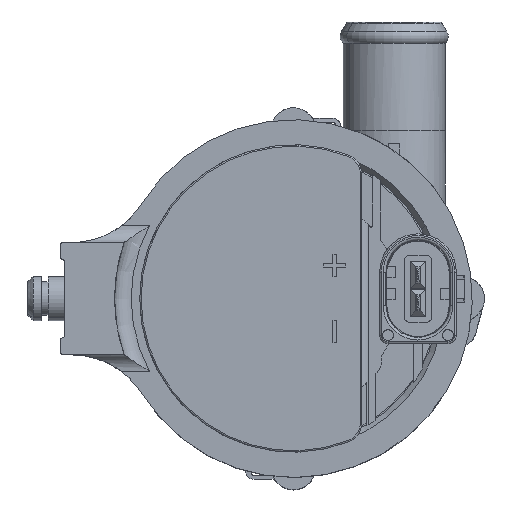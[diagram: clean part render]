
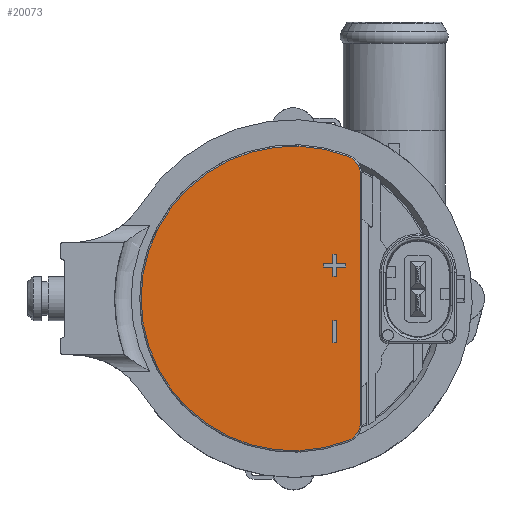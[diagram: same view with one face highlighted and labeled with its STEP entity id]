
A CAD part, top view. The second image highlights one B-rep face of the part: STEP entity #20073.
In plain terms, the highlighted planar face has unit normal (0, 0, 1).
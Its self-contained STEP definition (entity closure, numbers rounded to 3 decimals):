
#19897=AXIS2_PLACEMENT_3D('Plane Axis2P3D',#19894,#19895,#19896) ;
#19901=AXIS2_PLACEMENT_3D('Circle Axis2P3D',#19899,#19900,$) ;
#19910=AXIS2_PLACEMENT_3D('Circle Axis2P3D',#19908,#19909,$) ;
#19924=AXIS2_PLACEMENT_3D('Circle Axis2P3D',#19922,#19923,$) ;
#19931=AXIS2_PLACEMENT_3D('Circle Axis2P3D',#19929,#19930,$) ;
#19894=CARTESIAN_POINT('Axis2P3D Location',(8.85,0.,40.5)) ;
#19899=CARTESIAN_POINT('Axis2P3D Location',(0.,0.,40.5)) ;
#19903=CARTESIAN_POINT('Vertex',(-27.5,0.,40.5)) ;
#19905=CARTESIAN_POINT('Vertex',(9.854,-25.674,40.5)) ;
#19908=CARTESIAN_POINT('Axis2P3D Location',(8.6,-22.406,40.5)) ;
#19912=CARTESIAN_POINT('Vertex',(12.1,-22.406,40.5)) ;
#19915=CARTESIAN_POINT('Line Origine',(12.1,0.,40.5)) ;
#19919=CARTESIAN_POINT('Vertex',(12.1,22.406,40.5)) ;
#19922=CARTESIAN_POINT('Axis2P3D Location',(8.6,22.406,40.5)) ;
#19926=CARTESIAN_POINT('Vertex',(9.854,25.674,40.5)) ;
#19929=CARTESIAN_POINT('Axis2P3D Location',(0.,0.,40.5)) ;
#19941=CARTESIAN_POINT('Line Origine',(7.85,-6.,40.5)) ;
#19945=CARTESIAN_POINT('Vertex',(7.85,-8.,40.5)) ;
#19947=CARTESIAN_POINT('Vertex',(7.85,-4.,40.5)) ;
#19950=CARTESIAN_POINT('Line Origine',(7.5,-8.,40.5)) ;
#19954=CARTESIAN_POINT('Vertex',(7.15,-8.,40.5)) ;
#19957=CARTESIAN_POINT('Line Origine',(7.15,-6.,40.5)) ;
#19961=CARTESIAN_POINT('Vertex',(7.15,-4.,40.5)) ;
#19964=CARTESIAN_POINT('Line Origine',(7.5,-4.,40.5)) ;
#19975=CARTESIAN_POINT('Line Origine',(8.675,6.35,40.5)) ;
#19979=CARTESIAN_POINT('Vertex',(9.5,6.35,40.5)) ;
#19981=CARTESIAN_POINT('Vertex',(7.85,6.35,40.5)) ;
#19984=CARTESIAN_POINT('Line Origine',(9.5,6.,40.5)) ;
#19988=CARTESIAN_POINT('Vertex',(9.5,5.65,40.5)) ;
#19991=CARTESIAN_POINT('Line Origine',(8.675,5.65,40.5)) ;
#19995=CARTESIAN_POINT('Vertex',(7.85,5.65,40.5)) ;
#19998=CARTESIAN_POINT('Line Origine',(7.85,4.825,40.5)) ;
#20002=CARTESIAN_POINT('Vertex',(7.85,4.,40.5)) ;
#20005=CARTESIAN_POINT('Line Origine',(7.5,4.,40.5)) ;
#20009=CARTESIAN_POINT('Vertex',(7.15,4.,40.5)) ;
#20012=CARTESIAN_POINT('Line Origine',(7.15,4.825,40.5)) ;
#20016=CARTESIAN_POINT('Vertex',(7.15,5.65,40.5)) ;
#20019=CARTESIAN_POINT('Line Origine',(6.325,5.65,40.5)) ;
#20023=CARTESIAN_POINT('Vertex',(5.5,5.65,40.5)) ;
#20026=CARTESIAN_POINT('Line Origine',(5.5,6.,40.5)) ;
#20030=CARTESIAN_POINT('Vertex',(5.5,6.35,40.5)) ;
#20033=CARTESIAN_POINT('Line Origine',(6.325,6.35,40.5)) ;
#20037=CARTESIAN_POINT('Vertex',(7.15,6.35,40.5)) ;
#20040=CARTESIAN_POINT('Line Origine',(7.15,7.175,40.5)) ;
#20044=CARTESIAN_POINT('Vertex',(7.15,8.,40.5)) ;
#20047=CARTESIAN_POINT('Line Origine',(7.5,8.,40.5)) ;
#20051=CARTESIAN_POINT('Vertex',(7.85,8.,40.5)) ;
#20054=CARTESIAN_POINT('Line Origine',(7.85,7.175,40.5)) ;
#19895=DIRECTION('Axis2P3D Direction',(0.,0.,1.)) ;
#19896=DIRECTION('Axis2P3D XDirection',(1.,0.,0.)) ;
#19900=DIRECTION('Axis2P3D Direction',(0.,0.,1.)) ;
#19909=DIRECTION('Axis2P3D Direction',(0.,0.,1.)) ;
#19916=DIRECTION('Vector Direction',(0.,-1.,0.)) ;
#19923=DIRECTION('Axis2P3D Direction',(0.,0.,1.)) ;
#19930=DIRECTION('Axis2P3D Direction',(0.,0.,1.)) ;
#19942=DIRECTION('Vector Direction',(0.,-1.,0.)) ;
#19951=DIRECTION('Vector Direction',(-1.,0.,0.)) ;
#19958=DIRECTION('Vector Direction',(0.,1.,0.)) ;
#19965=DIRECTION('Vector Direction',(1.,0.,0.)) ;
#19976=DIRECTION('Vector Direction',(1.,0.,0.)) ;
#19985=DIRECTION('Vector Direction',(0.,-1.,0.)) ;
#19992=DIRECTION('Vector Direction',(-1.,0.,0.)) ;
#19999=DIRECTION('Vector Direction',(0.,-1.,0.)) ;
#20006=DIRECTION('Vector Direction',(-1.,0.,0.)) ;
#20013=DIRECTION('Vector Direction',(0.,1.,0.)) ;
#20020=DIRECTION('Vector Direction',(-1.,0.,0.)) ;
#20027=DIRECTION('Vector Direction',(0.,1.,0.)) ;
#20034=DIRECTION('Vector Direction',(1.,0.,0.)) ;
#20041=DIRECTION('Vector Direction',(0.,1.,0.)) ;
#20048=DIRECTION('Vector Direction',(1.,0.,0.)) ;
#20055=DIRECTION('Vector Direction',(0.,-1.,0.)) ;
#19917=VECTOR('Line Direction',#19916,1.) ;
#19943=VECTOR('Line Direction',#19942,1.) ;
#19952=VECTOR('Line Direction',#19951,1.) ;
#19959=VECTOR('Line Direction',#19958,1.) ;
#19966=VECTOR('Line Direction',#19965,1.) ;
#19977=VECTOR('Line Direction',#19976,1.) ;
#19986=VECTOR('Line Direction',#19985,1.) ;
#19993=VECTOR('Line Direction',#19992,1.) ;
#20000=VECTOR('Line Direction',#19999,1.) ;
#20007=VECTOR('Line Direction',#20006,1.) ;
#20014=VECTOR('Line Direction',#20013,1.) ;
#20021=VECTOR('Line Direction',#20020,1.) ;
#20028=VECTOR('Line Direction',#20027,1.) ;
#20035=VECTOR('Line Direction',#20034,1.) ;
#20042=VECTOR('Line Direction',#20041,1.) ;
#20049=VECTOR('Line Direction',#20048,1.) ;
#20056=VECTOR('Line Direction',#20055,1.) ;
#19935=ORIENTED_EDGE('',*,*,#19907,.T.) ;
#19936=ORIENTED_EDGE('',*,*,#19914,.T.) ;
#19937=ORIENTED_EDGE('',*,*,#19921,.T.) ;
#19938=ORIENTED_EDGE('',*,*,#19928,.T.) ;
#19939=ORIENTED_EDGE('',*,*,#19933,.T.) ;
#19970=ORIENTED_EDGE('',*,*,#19949,.F.) ;
#19971=ORIENTED_EDGE('',*,*,#19956,.F.) ;
#19972=ORIENTED_EDGE('',*,*,#19963,.F.) ;
#19973=ORIENTED_EDGE('',*,*,#19968,.F.) ;
#20060=ORIENTED_EDGE('',*,*,#19983,.F.) ;
#20061=ORIENTED_EDGE('',*,*,#19990,.F.) ;
#20062=ORIENTED_EDGE('',*,*,#19997,.F.) ;
#20063=ORIENTED_EDGE('',*,*,#20004,.F.) ;
#20064=ORIENTED_EDGE('',*,*,#20011,.F.) ;
#20065=ORIENTED_EDGE('',*,*,#20018,.F.) ;
#20066=ORIENTED_EDGE('',*,*,#20025,.F.) ;
#20067=ORIENTED_EDGE('',*,*,#20032,.F.) ;
#20068=ORIENTED_EDGE('',*,*,#20039,.F.) ;
#20069=ORIENTED_EDGE('',*,*,#20046,.F.) ;
#20070=ORIENTED_EDGE('',*,*,#20053,.F.) ;
#20071=ORIENTED_EDGE('',*,*,#20058,.F.) ;
#19974=FACE_BOUND('',#19969,.T.) ;
#20072=FACE_BOUND('',#20059,.T.) ;
#20073=ADVANCED_FACE('Gehaeusedeckel\\PartBody',(#19940,#19974,#20072),#19898,.T.) ;
#19902=CIRCLE('generated circle',#19901,27.5) ;
#19911=CIRCLE('generated circle',#19910,3.5) ;
#19925=CIRCLE('generated circle',#19924,3.5) ;
#19932=CIRCLE('generated circle',#19931,27.5) ;
#19907=EDGE_CURVE('',#19904,#19906,#19902,.T.) ;
#19914=EDGE_CURVE('',#19906,#19913,#19911,.T.) ;
#19921=EDGE_CURVE('',#19913,#19920,#19918,.F.) ;
#19928=EDGE_CURVE('',#19920,#19927,#19925,.T.) ;
#19933=EDGE_CURVE('',#19927,#19904,#19932,.T.) ;
#19949=EDGE_CURVE('',#19946,#19948,#19944,.F.) ;
#19956=EDGE_CURVE('',#19955,#19946,#19953,.F.) ;
#19963=EDGE_CURVE('',#19962,#19955,#19960,.F.) ;
#19968=EDGE_CURVE('',#19948,#19962,#19967,.F.) ;
#19983=EDGE_CURVE('',#19980,#19982,#19978,.F.) ;
#19990=EDGE_CURVE('',#19989,#19980,#19987,.F.) ;
#19997=EDGE_CURVE('',#19996,#19989,#19994,.F.) ;
#20004=EDGE_CURVE('',#20003,#19996,#20001,.F.) ;
#20011=EDGE_CURVE('',#20010,#20003,#20008,.F.) ;
#20018=EDGE_CURVE('',#20017,#20010,#20015,.F.) ;
#20025=EDGE_CURVE('',#20024,#20017,#20022,.F.) ;
#20032=EDGE_CURVE('',#20031,#20024,#20029,.F.) ;
#20039=EDGE_CURVE('',#20038,#20031,#20036,.F.) ;
#20046=EDGE_CURVE('',#20045,#20038,#20043,.F.) ;
#20053=EDGE_CURVE('',#20052,#20045,#20050,.F.) ;
#20058=EDGE_CURVE('',#19982,#20052,#20057,.F.) ;
#19934=EDGE_LOOP('',(#19935,#19936,#19937,#19938,#19939)) ;
#19969=EDGE_LOOP('',(#19970,#19971,#19972,#19973)) ;
#20059=EDGE_LOOP('',(#20060,#20061,#20062,#20063,#20064,#20065,#20066,#20067,#20068,#20069,#20070,#20071)) ;
#19940=FACE_OUTER_BOUND('',#19934,.T.) ;
#19918=LINE('Line',#19915,#19917) ;
#19944=LINE('Line',#19941,#19943) ;
#19953=LINE('Line',#19950,#19952) ;
#19960=LINE('Line',#19957,#19959) ;
#19967=LINE('Line',#19964,#19966) ;
#19978=LINE('Line',#19975,#19977) ;
#19987=LINE('Line',#19984,#19986) ;
#19994=LINE('Line',#19991,#19993) ;
#20001=LINE('Line',#19998,#20000) ;
#20008=LINE('Line',#20005,#20007) ;
#20015=LINE('Line',#20012,#20014) ;
#20022=LINE('Line',#20019,#20021) ;
#20029=LINE('Line',#20026,#20028) ;
#20036=LINE('Line',#20033,#20035) ;
#20043=LINE('Line',#20040,#20042) ;
#20050=LINE('Line',#20047,#20049) ;
#20057=LINE('Line',#20054,#20056) ;
#19898=PLANE('Plane',#19897) ;
#19904=VERTEX_POINT('',#19903) ;
#19906=VERTEX_POINT('',#19905) ;
#19913=VERTEX_POINT('',#19912) ;
#19920=VERTEX_POINT('',#19919) ;
#19927=VERTEX_POINT('',#19926) ;
#19946=VERTEX_POINT('',#19945) ;
#19948=VERTEX_POINT('',#19947) ;
#19955=VERTEX_POINT('',#19954) ;
#19962=VERTEX_POINT('',#19961) ;
#19980=VERTEX_POINT('',#19979) ;
#19982=VERTEX_POINT('',#19981) ;
#19989=VERTEX_POINT('',#19988) ;
#19996=VERTEX_POINT('',#19995) ;
#20003=VERTEX_POINT('',#20002) ;
#20010=VERTEX_POINT('',#20009) ;
#20017=VERTEX_POINT('',#20016) ;
#20024=VERTEX_POINT('',#20023) ;
#20031=VERTEX_POINT('',#20030) ;
#20038=VERTEX_POINT('',#20037) ;
#20045=VERTEX_POINT('',#20044) ;
#20052=VERTEX_POINT('',#20051) ;
